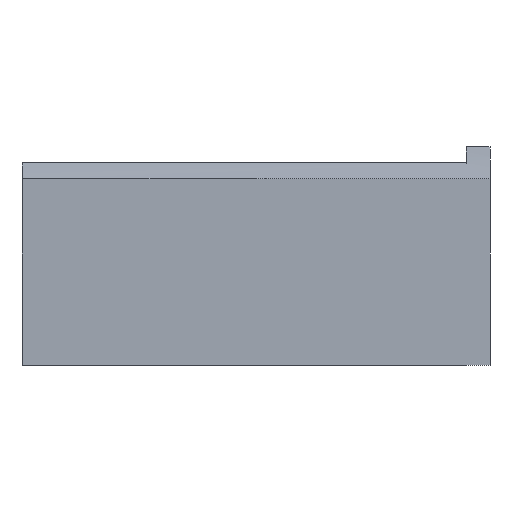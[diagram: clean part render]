
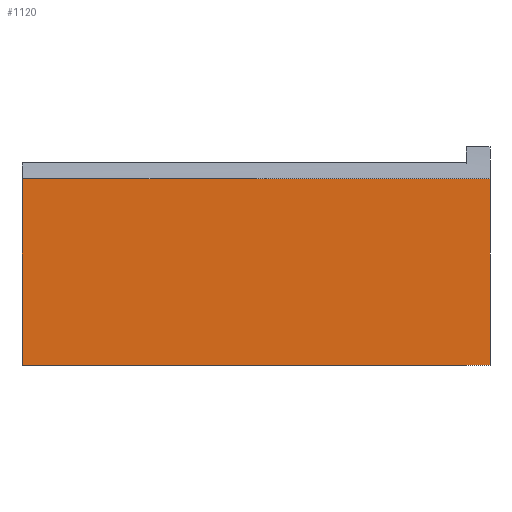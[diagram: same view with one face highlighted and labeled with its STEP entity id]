
A CAD part, front view. The second image highlights one B-rep face of the part: STEP entity #1120.
In plain terms, the highlighted planar face has unit normal (0, -1, 0).
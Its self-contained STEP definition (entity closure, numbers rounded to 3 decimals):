
#21 = EDGE_CURVE('',#22,#24,#26,.T.);
#22 = VERTEX_POINT('',#23);
#23 = CARTESIAN_POINT('',(160.7,-14.,9.9));
#24 = VERTEX_POINT('',#25);
#25 = CARTESIAN_POINT('',(160.7,-14.,19.37));
#26 = SURFACE_CURVE('',#27,(#31,#43),.PCURVE_S1.);
#27 = LINE('',#28,#29);
#28 = CARTESIAN_POINT('',(160.7,-14.,9.9));
#29 = VECTOR('',#30,1.);
#30 = DIRECTION('',(0.,0.,1.));
#31 = PCURVE('',#32,#37);
#32 = PLANE('',#33);
#33 = AXIS2_PLACEMENT_3D('',#34,#35,#36);
#34 = CARTESIAN_POINT('',(160.7,-14.,9.9));
#35 = DIRECTION('',(1.,0.,-0.));
#36 = DIRECTION('',(0.,0.,1.));
#37 = DEFINITIONAL_REPRESENTATION('',(#38),#42);
#38 = LINE('',#39,#40);
#39 = CARTESIAN_POINT('',(0.,0.));
#40 = VECTOR('',#41,1.);
#41 = DIRECTION('',(1.,0.));
#42 = ( GEOMETRIC_REPRESENTATION_CONTEXT(2) 
PARAMETRIC_REPRESENTATION_CONTEXT() REPRESENTATION_CONTEXT('2D SPACE',''
  ) );
#43 = PCURVE('',#44,#49);
#44 = PLANE('',#45);
#45 = AXIS2_PLACEMENT_3D('',#46,#47,#48);
#46 = CARTESIAN_POINT('',(160.7,-14.,9.9));
#47 = DIRECTION('',(-0.,1.,0.));
#48 = DIRECTION('',(0.,0.,1.));
#49 = DEFINITIONAL_REPRESENTATION('',(#50),#54);
#50 = LINE('',#51,#52);
#51 = CARTESIAN_POINT('',(0.,0.));
#52 = VECTOR('',#53,1.);
#53 = DIRECTION('',(1.,0.));
#54 = ( GEOMETRIC_REPRESENTATION_CONTEXT(2) 
PARAMETRIC_REPRESENTATION_CONTEXT() REPRESENTATION_CONTEXT('2D SPACE',''
  ) );
#72 = PLANE('',#73);
#73 = AXIS2_PLACEMENT_3D('',#74,#75,#76);
#74 = CARTESIAN_POINT('',(160.7,-14.,9.9));
#75 = DIRECTION('',(0.,0.,1.));
#76 = DIRECTION('',(1.,0.,-0.));
#187 = CYLINDRICAL_SURFACE('',#188,23.9);
#188 = AXIS2_PLACEMENT_3D('',#189,#190,#191);
#189 = CARTESIAN_POINT('',(140.5,0.,0.));
#190 = DIRECTION('',(1.,0.,0.));
#191 = DIRECTION('',(-0.,0.,1.));
#224 = EDGE_CURVE('',#225,#24,#227,.T.);
#225 = VERTEX_POINT('',#226);
#226 = CARTESIAN_POINT('',(184.5,-14.,19.37));
#227 = SURFACE_CURVE('',#228,(#232,#239),.PCURVE_S1.);
#228 = LINE('',#229,#230);
#229 = CARTESIAN_POINT('',(184.5,-14.,19.37));
#230 = VECTOR('',#231,1.);
#231 = DIRECTION('',(-1.,0.,0.));
#232 = PCURVE('',#187,#233);
#233 = DEFINITIONAL_REPRESENTATION('',(#234),#238);
#234 = LINE('',#235,#236);
#235 = CARTESIAN_POINT('',(0.626,44.));
#236 = VECTOR('',#237,1.);
#237 = DIRECTION('',(-0.,-1.));
#238 = ( GEOMETRIC_REPRESENTATION_CONTEXT(2) 
PARAMETRIC_REPRESENTATION_CONTEXT() REPRESENTATION_CONTEXT('2D SPACE',''
  ) );
#239 = PCURVE('',#44,#240);
#240 = DEFINITIONAL_REPRESENTATION('',(#241),#245);
#241 = LINE('',#242,#243);
#242 = CARTESIAN_POINT('',(9.47,23.8));
#243 = VECTOR('',#244,1.);
#244 = DIRECTION('',(0.,-1.));
#245 = ( GEOMETRIC_REPRESENTATION_CONTEXT(2) 
PARAMETRIC_REPRESENTATION_CONTEXT() REPRESENTATION_CONTEXT('2D SPACE',''
  ) );
#264 = PLANE('',#265);
#265 = AXIS2_PLACEMENT_3D('',#266,#267,#268);
#266 = CARTESIAN_POINT('',(184.5,-14.,9.9));
#267 = DIRECTION('',(1.,0.,-0.));
#268 = DIRECTION('',(0.,0.,1.));
#962 = EDGE_CURVE('',#963,#225,#965,.T.);
#963 = VERTEX_POINT('',#964);
#964 = CARTESIAN_POINT('',(184.5,-14.,9.9));
#965 = SURFACE_CURVE('',#966,(#970,#977),.PCURVE_S1.);
#966 = LINE('',#967,#968);
#967 = CARTESIAN_POINT('',(184.5,-14.,9.9));
#968 = VECTOR('',#969,1.);
#969 = DIRECTION('',(0.,0.,1.));
#970 = PCURVE('',#264,#971);
#971 = DEFINITIONAL_REPRESENTATION('',(#972),#976);
#972 = LINE('',#973,#974);
#973 = CARTESIAN_POINT('',(0.,0.));
#974 = VECTOR('',#975,1.);
#975 = DIRECTION('',(1.,0.));
#976 = ( GEOMETRIC_REPRESENTATION_CONTEXT(2) 
PARAMETRIC_REPRESENTATION_CONTEXT() REPRESENTATION_CONTEXT('2D SPACE',''
  ) );
#977 = PCURVE('',#44,#978);
#978 = DEFINITIONAL_REPRESENTATION('',(#979),#983);
#979 = LINE('',#980,#981);
#980 = CARTESIAN_POINT('',(0.,23.8));
#981 = VECTOR('',#982,1.);
#982 = DIRECTION('',(1.,0.));
#983 = ( GEOMETRIC_REPRESENTATION_CONTEXT(2) 
PARAMETRIC_REPRESENTATION_CONTEXT() REPRESENTATION_CONTEXT('2D SPACE',''
  ) );
#1093 = EDGE_CURVE('',#22,#963,#1094,.T.);
#1094 = SURFACE_CURVE('',#1095,(#1099,#1106),.PCURVE_S1.);
#1095 = LINE('',#1096,#1097);
#1096 = CARTESIAN_POINT('',(160.7,-14.,9.9));
#1097 = VECTOR('',#1098,1.);
#1098 = DIRECTION('',(1.,0.,0.));
#1099 = PCURVE('',#72,#1100);
#1100 = DEFINITIONAL_REPRESENTATION('',(#1101),#1105);
#1101 = LINE('',#1102,#1103);
#1102 = CARTESIAN_POINT('',(0.,0.));
#1103 = VECTOR('',#1104,1.);
#1104 = DIRECTION('',(1.,0.));
#1105 = ( GEOMETRIC_REPRESENTATION_CONTEXT(2) 
PARAMETRIC_REPRESENTATION_CONTEXT() REPRESENTATION_CONTEXT('2D SPACE',''
  ) );
#1106 = PCURVE('',#44,#1107);
#1107 = DEFINITIONAL_REPRESENTATION('',(#1108),#1112);
#1108 = LINE('',#1109,#1110);
#1109 = CARTESIAN_POINT('',(0.,0.));
#1110 = VECTOR('',#1111,1.);
#1111 = DIRECTION('',(0.,1.));
#1112 = ( GEOMETRIC_REPRESENTATION_CONTEXT(2) 
PARAMETRIC_REPRESENTATION_CONTEXT() REPRESENTATION_CONTEXT('2D SPACE',''
  ) );
#1120 = ADVANCED_FACE('',(#1121),#44,.F.);
#1121 = FACE_BOUND('',#1122,.F.);
#1122 = EDGE_LOOP('',(#1123,#1124,#1125,#1126));
#1123 = ORIENTED_EDGE('',*,*,#1093,.F.);
#1124 = ORIENTED_EDGE('',*,*,#21,.T.);
#1125 = ORIENTED_EDGE('',*,*,#224,.F.);
#1126 = ORIENTED_EDGE('',*,*,#962,.F.);
